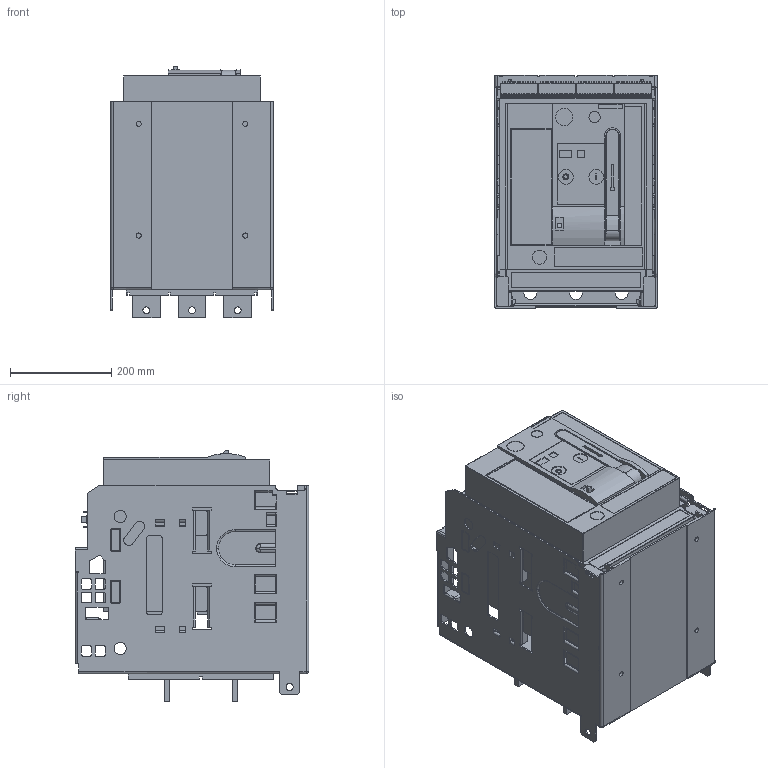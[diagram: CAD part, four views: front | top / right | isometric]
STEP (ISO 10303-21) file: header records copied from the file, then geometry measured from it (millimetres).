
FILE_DESCRIPTION (( 'STEP AP214' ), '1' );
FILE_NAME ('ARION_WL1110-___36.step', '2012-01-11T11:03:01', ( 'Radek Veselý' ), ( 'Siemens and Partners' ), 'SwSTEP 2.0', 'SolidWorks 2006303', '' );
FILE_SCHEMA (( 'AUTOMOTIVE_DESIGN' ));
Length unit declared in the file: millimetre
Products named in the file (1): ARION_WL1110-___36
Bounding box: 320 x 460 x 496.5 mm (x, y, z)
Volume: 35819828.1 mm3; surface area: 2625745.3 mm2
Topology: 11 solids, 11 shells, 3084 faces, 8149 edges, 5366 vertices
Faces by surface type: plane 2491, cylinder 571, torus 14, sphere 6, bspline 2
Entity records: 128686 total; most frequent: CARTESIAN_POINT 16808, ORIENTED_EDGE 16282, DIRECTION 15443, EDGE_CURVE 8141, VECTOR 6953, LINE 6953, VERTEX_POINT 5366, AXIS2_PLACEMENT_3D 4245
